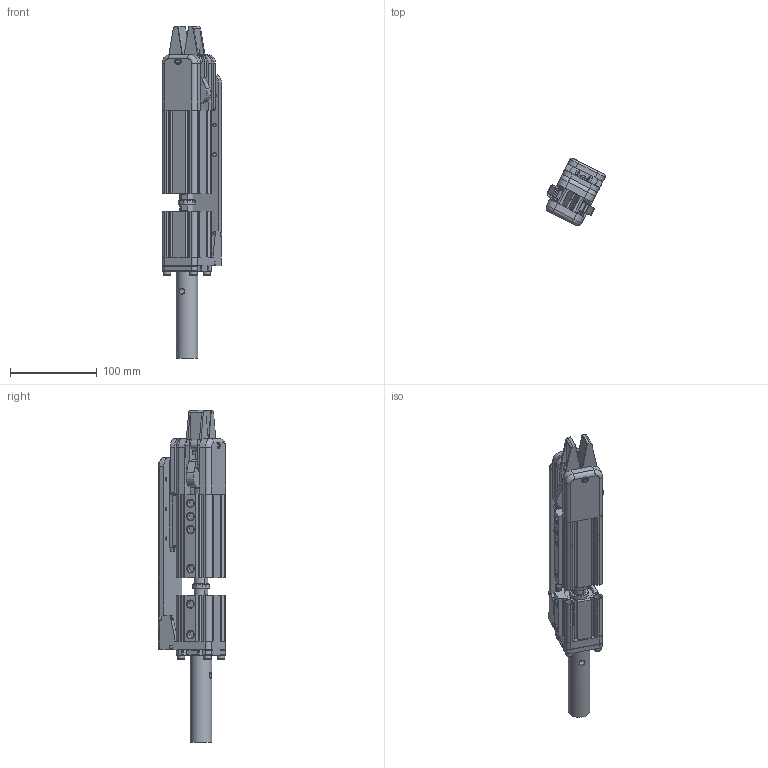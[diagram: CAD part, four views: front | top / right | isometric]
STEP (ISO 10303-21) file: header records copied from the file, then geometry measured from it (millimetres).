
FILE_DESCRIPTION(/* description */ (''),/* implementation_level */ '2;1');
FILE_NAME(/* name */ '8Y00418-GRP32C-3020--25.stp',/* time_stamp */ '2023-02-22T15:17:09+08:00',/* author */ (''),/* organization */ (''),/* preprocessor_version */ 'ST-DEVELOPER v16',/* originating_system */ 'SIEMENS PLM Software NX 10.0',/* authorisation */ '');
FILE_SCHEMA (('AUTOMOTIVE_DESIGN { 1 0 10303 214 3 1 1 1 }'));
Length unit declared in the file: millimetre
Products named in the file (1): _model51
Bounding box: 68.83 x 77.89 x 381.8 mm (x, y, z)
Volume: 484702.5 mm3; surface area: 188260 mm2
Topology: 14 solids, 37 shells, 1287 faces, 3155 edges, 2004 vertices
Faces by surface type: plane 754, cylinder 348, cone 146, revolution 25, sphere 14
Full cylindrical faces by diameter (mm): 2.5 x2, 3.3 x6, 4 x12, 4.1 x1, 4.2 x16, 4.5 x8, 4.917 x8, 5 x8, 5.2 x12, 5.5 x8, 6 x12, 6.5 x1, 6.647 x3, 6.8 x1, 7 x14, 8 x7, 8.5 x9, 8.566 x6, 8.6 x1, 9 x16, 10 x6, 13 x2, 13.5 x1, 14 x1, 15 x2, 16 x4, 17 x12, 20 x3, 21 x3, 25 x1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
Entity records: 44679 total; most frequent: CARTESIAN_POINT 6996, DIRECTION 6105, ORIENTED_EDGE 5274, EDGE_CURVE 2637, AXIS2_PLACEMENT_3D 2264, VERTEX_POINT 1862, EDGE_LOOP 1792, LINE 1552
